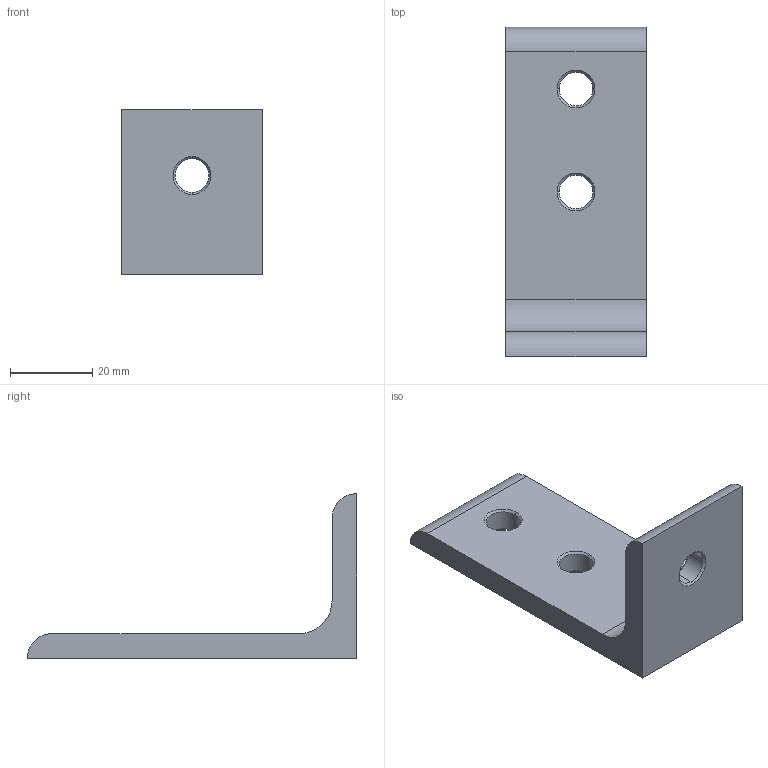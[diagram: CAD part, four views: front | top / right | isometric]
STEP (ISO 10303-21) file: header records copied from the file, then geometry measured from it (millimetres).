
FILE_DESCRIPTION (( 'STEP AP203' ), '1' );
FILE_NAME ('114040AL.STEP', '2017-04-27T10:25:34', ( '' ), ( '' ), 'SwSTEP 2.0', 'SolidWorks 2014', '' );
FILE_SCHEMA (( 'CONFIG_CONTROL_DESIGN' ));
Length unit declared in the file: millimetre
Products named in the file (1): 114040AL
Bounding box: 34 x 80 x 40 mm (x, y, z)
Volume: 22226.9 mm3; surface area: 9336.2 mm2
Topology: 1 solids, 1 shells, 27 faces, 63 edges, 38 vertices
Faces by surface type: cone 12, cylinder 9, plane 6
Entity records: 860 total; most frequent: DIRECTION 149, CARTESIAN_POINT 129, ORIENTED_EDGE 126, EDGE_CURVE 63, AXIS2_PLACEMENT_3D 58, VERTEX_POINT 38, EDGE_LOOP 33, LINE 33
